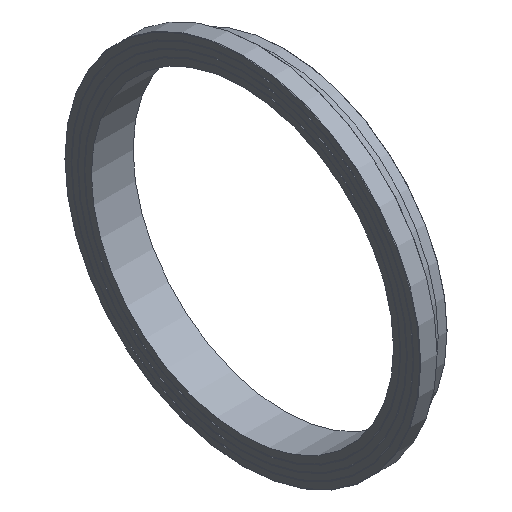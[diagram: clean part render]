
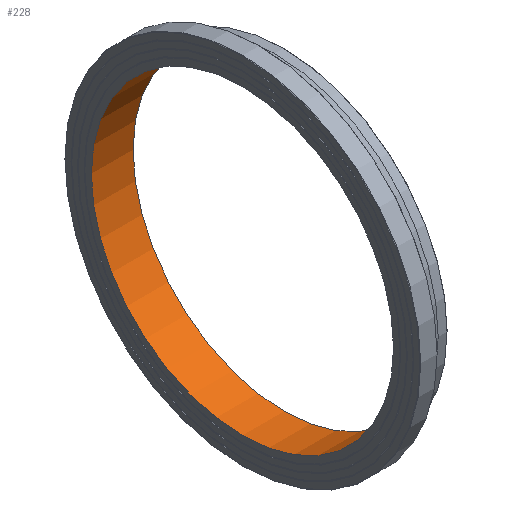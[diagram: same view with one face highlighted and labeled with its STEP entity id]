
A CAD part, isometric view. The second image highlights one B-rep face of the part: STEP entity #228.
In plain terms, the highlighted cylindrical face has radius 554.1 mm (diameter 1108.2 mm), a full revolution.
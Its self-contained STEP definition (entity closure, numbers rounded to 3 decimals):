
#33=CYLINDRICAL_SURFACE('',#274,554.1);
#50=ORIENTED_EDGE('',*,*,#79,.F.);
#51=ORIENTED_EDGE('',*,*,#76,.T.);
#76=EDGE_CURVE('',#96,#96,#116,.T.);
#79=EDGE_CURVE('',#99,#99,#119,.T.);
#96=VERTEX_POINT('',#383);
#99=VERTEX_POINT('',#390);
#116=CIRCLE('',#257,554.1);
#119=CIRCLE('',#261,554.1);
#150=EDGE_LOOP('',(#50));
#151=EDGE_LOOP('',(#51));
#190=FACE_BOUND('',#150,.T.);
#191=FACE_BOUND('',#151,.T.);
#228=ADVANCED_FACE('',(#190,#191),#33,.F.);
#257=AXIS2_PLACEMENT_3D('',#382,#303,#304);
#261=AXIS2_PLACEMENT_3D('',#389,#311,#312);
#274=AXIS2_PLACEMENT_3D('',#410,#337,#338);
#303=DIRECTION('',(-1.,0.,0.));
#304=DIRECTION('',(0.,0.,1.));
#311=DIRECTION('',(-1.,0.,0.));
#312=DIRECTION('',(0.,0.,1.));
#337=DIRECTION('',(-1.,0.,0.));
#338=DIRECTION('',(0.,0.,1.));
#382=CARTESIAN_POINT('',(0.,0.,0.));
#383=CARTESIAN_POINT('',(0.,0.,554.1));
#389=CARTESIAN_POINT('',(153.,0.,0.));
#390=CARTESIAN_POINT('',(153.,0.,554.1));
#410=CARTESIAN_POINT('',(60.,0.,0.));
